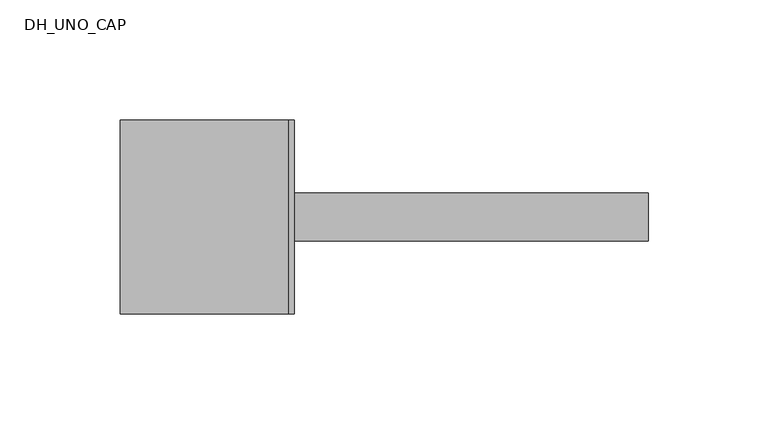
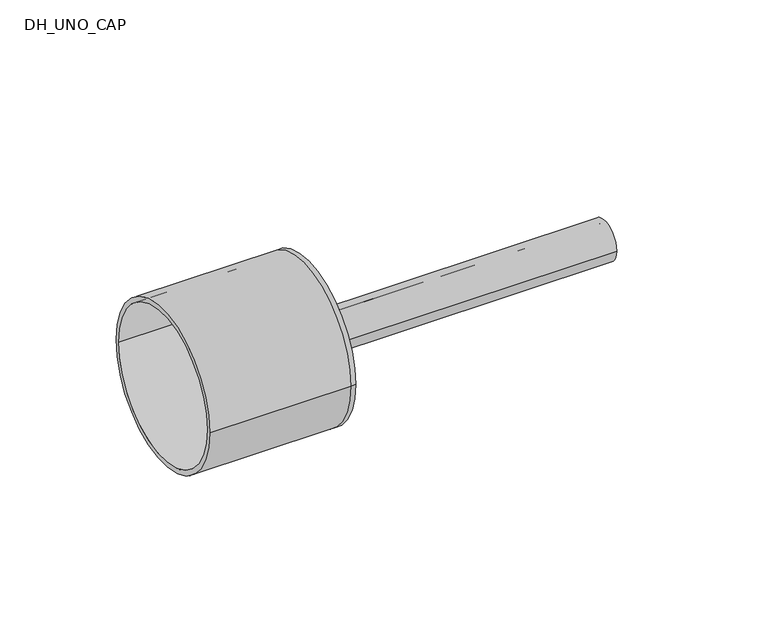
"""IFC4 building model written with IfcOpenShell, lengths in millimetres: pipe fitting geometry, DH_UNO_CAP : RAUTHERMEX UNO 7.4 DW - Solid Cap."""

from ifc_helpers import new_model, si_unit, point, frame, origin, origin_2d, place, context, project, spatial, polyline, circle_curve, trimmed, segment, composite_curve, outline, extrude, source, transform, mapped, element, save
from ifc_brep_helpers import plane_surface, cylinder_surface, revolved_surface, advanced_brep


def dh_uno_cap_2f90c035(model_context):
    return source(origin(), model_context, "Body", "SolidModel", [
        extrude(outline(composite_curve([segment(trimmed(circle_curve(origin_2d(), 10.0), [point((-10.0, 0.0))], [point((10.0, 0.0))], False, "CARTESIAN"), True, "CONTINUOUS"), segment(trimmed(circle_curve(origin_2d(), 10.0), [point((10.0, 0.0))], [point((-10.0, 0.0))], False, "CARTESIAN"), True, "CONTINUOUS")], self_intersect=False), holes=[composite_curve([segment(trimmed(circle_curve(origin_2d(), 7.2), [point((-7.2, 0.0))], [point((7.2, 0.0))], True, "CARTESIAN"), True, "CONTINUOUS"), segment(trimmed(circle_curve(origin_2d(), 7.2), [point((7.2, 0.0))], [point((-7.2, 0.0))], True, "CARTESIAN"), True, "CONTINUOUS")], self_intersect=False)]), frame((0.0, 0.0, 0.0), z_axis=(1.0, 0.0, 0.0), x_axis=(0.0, 1.0, 0.0)), (0.0, 0.0, 1.0), 150.0),
        advanced_brep(
        [(-70.0, -40.5, 0.0), (-70.0, 40.5, 0.0), (-70.0, -38.0, 0.0), (-70.0, 38.0, 0.0), (0.0, -38.0, 0.0), (0.0, 38.0, 0.0), (0.0, -40.5, 0.0), (0.0, 40.5, 0.0), (0.0, 10.0, 0.0), (0.0, -10.0, 0.0), (2.5, -40.5, 0.0), (2.5, 40.5, 0.0), (2.5, -10.0, 0.0), (2.5, 10.0, 0.0)],
        [
            (0, 1, circle_curve(frame((-70.0, 0.0, 0.0), z_axis=(-1.0, 0.0, 0.0), x_axis=(0.0, 1.0, 0.0)), 40.5)),
            (1, 0, circle_curve(frame((-70.0, 0.0, 0.0), z_axis=(-1.0, 0.0, 0.0), x_axis=(0.0, 1.0, 0.0)), 40.5)),
            (2, 3, circle_curve(frame((-70.0, 0.0, 0.0), z_axis=(1.0, 0.0, 0.0), x_axis=(0.0, 1.0, 0.0)), 38.0)),
            (3, 2, circle_curve(frame((-70.0, 0.0, 0.0), z_axis=(1.0, 0.0, 0.0), x_axis=(0.0, 1.0, 0.0)), 38.0)),
            (2, 4),
            (4, 5, circle_curve(frame((0.0, 0.0, 0.0), z_axis=(1.0, 0.0, 0.0), x_axis=(0.0, 1.0, 0.0)), 38.0)),
            (5, 3),
            (5, 4, circle_curve(frame((0.0, 0.0, 0.0), z_axis=(1.0, 0.0, 0.0), x_axis=(0.0, 1.0, 0.0)), 38.0)),
            (0, 6),
            (6, 7, circle_curve(frame((0.0, 0.0, 0.0), z_axis=(-1.0, 0.0, 0.0), x_axis=(0.0, 1.0, 0.0)), 40.5)),
            (7, 1),
            (7, 6, circle_curve(frame((0.0, 0.0, 0.0), z_axis=(-1.0, 0.0, 0.0), x_axis=(0.0, 1.0, 0.0)), 40.5)),
            (8, 9, circle_curve(frame((0.0, 0.0, 0.0), z_axis=(1.0, 0.0, 0.0), x_axis=(0.0, 1.0, 0.0)), 10.0)),
            (9, 8, circle_curve(frame((0.0, 0.0, 0.0), z_axis=(1.0, 0.0, 0.0), x_axis=(0.0, 1.0, 0.0)), 10.0)),
            (10, 11, circle_curve(frame((2.5, 0.0, 0.0), z_axis=(1.0, 0.0, 0.0), x_axis=(0.0, 1.0, 0.0)), 40.5)),
            (11, 10, circle_curve(frame((2.5, 0.0, 0.0), z_axis=(1.0, 0.0, 0.0), x_axis=(0.0, 1.0, 0.0)), 40.5)),
            (12, 13, circle_curve(frame((2.5, 0.0, 0.0), z_axis=(-1.0, 0.0, 0.0), x_axis=(0.0, 1.0, 0.0)), 10.0)),
            (13, 12, circle_curve(frame((2.5, 0.0, 0.0), z_axis=(-1.0, 0.0, 0.0), x_axis=(0.0, 1.0, 0.0)), 10.0)),
            (11, 7),
            (6, 10),
            (8, 13),
            (12, 9),
        ],
        [
            plane_surface(frame((-70.0, 0.0, 0.0), z_axis=(-1.0, 0.0, 0.0), x_axis=(0.0, 0.0, 1.0))),
            revolved_surface(polyline([(0.0, 38.0, 0.0), (-70.0, 38.0, 0.0)]), (-70.0, 0.0, 0.0), (1.0, 0.0, 0.0)),
            cylinder_surface(frame((-70.0, 0.0, 0.0), z_axis=(-1.0, 0.0, 0.0), x_axis=(0.0, 1.0, 0.0)), 40.5),
            plane_surface(frame((0.0, 0.0, 0.0), z_axis=(-1.0, 0.0, 0.0), x_axis=(0.0, 0.0, 1.0))),
            plane_surface(frame((2.5, 0.0, 0.0), z_axis=(1.0, 0.0, 0.0), x_axis=(0.0, 0.0, 1.0))),
            cylinder_surface(frame((0.0, 0.0, 0.0), z_axis=(-1.0, 0.0, 0.0), x_axis=(0.0, 1.0, 0.0)), 40.5),
            revolved_surface(polyline([(0.0, 10.0, 0.0), (2.5, 10.0, 0.0)]), (0.0, 0.0, 0.0), (-1.0, 0.0, 0.0)),
        ],
        [
            (0, [[1, 2], [3, 4]]),
            (1, [[-3, 5, 6, 7]]),
            (1, [[-4, -7, 8, -5]]),
            (2, [[-1, 9, 10, 11]]),
            (2, [[-2, -11, 12, -9]]),
            (3, [[-6, -8], [13, 14]]),
            (4, [[15, 16], [17, 18]]),
            (5, [[-16, 19, -10, 20]]),
            (5, [[-15, -20, -12, -19]]),
            (6, [[21, -17, 22, -13]]),
            (6, [[-21, -14, -22, -18]]),
        ],
    ),
    ])


if __name__ == "__main__":
    model = new_model("IFC4")
    model_context = context("Model", 3, world=origin())
    ifc_project = project(units=[si_unit("LENGTHUNIT", "METRE", prefix="MILLI")], contexts=[model_context])
    site = spatial("IfcSite", under=ifc_project)
    building = spatial("IfcBuilding", under=site)
    placement = place(None, origin())
    dh_uno_cap_shape = dh_uno_cap_2f90c035(model_context)
    element("IfcPipeFitting", 1, ObjectType="DH_UNO_CAP : RAUTHERMEX UNO 7.4 DW - Solid Cap", at=placement, inside=building, context=model_context, shape_type="MappedRepresentation", body=[
        mapped(dh_uno_cap_shape, transform((0.0, 0.0, 0.0), x_axis=(1.0, 0.0, 0.0), y_axis=(0.0, 1.0, 0.0), z_axis=(0.0, 0.0, 1.0))),
    ])
    save(model, "model.ifc")
